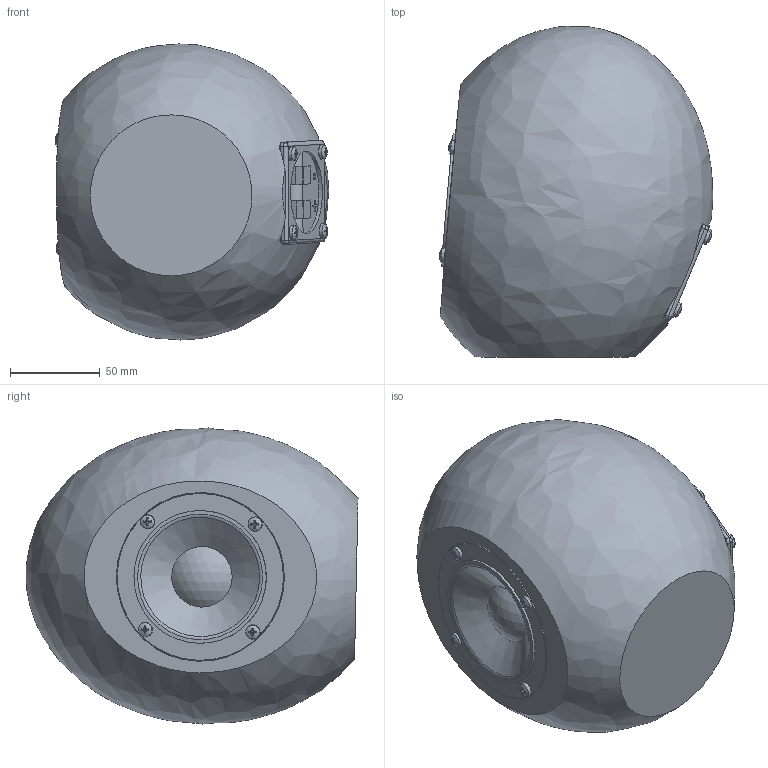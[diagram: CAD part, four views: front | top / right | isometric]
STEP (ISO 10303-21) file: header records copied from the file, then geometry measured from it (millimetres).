
FILE_DESCRIPTION(/* description */ (''),/* implementation_level */ '2;1');
FILE_NAME(/* name */ 'C:\Users\mzell\OneDrive - Zeller Engineering UG (haftungsbeschränkt)\Mona2\Mona SAT.stp',/* time_stamp */ '2019-01-27T16:16:27+01:00',/* author */ ('mzell'),/* organization */ (''),/* preprocessor_version */ 'ST-DEVELOPER v17.2',/* originating_system */ 'Autodesk Inventor 2019',/* authorisation */ '');
FILE_SCHEMA (('AUTOMOTIVE_DESIGN { 1 0 10303 214 3 1 1 }'));
Length unit declared in the file: millimetre
Products named in the file (9): Mona SAT; 3D-Druck EI; SPX-30M; Terminal; Spule 0,18mH 0,32Ohm; Wiederstand GSRB; ISO 7049 - ST4,2 x 16 - F - Z; Dichtung_SPX-30M-0,3; Dichtung Terminal 1
Assembly tree (15 placements, depth 2):
  Mona SAT
    3D-Druck EI
    SPX-30M
    Terminal
    Spule 0,18mH 0,32Ohm
    Wiederstand GSRB
    ISO 7049 - ST4,2 x 16 - F - Z  x8
    Dichtung_SPX-30M-0,3
    Dichtung Terminal 1
Bounding box: 152.3 x 184.92 x 164.96 mm (x, y, z)
Volume: 814868 mm3; surface area: 223933.6 mm2
Topology: 15 solids, 15 shells, 640 faces, 1733 edges, 1153 vertices
Faces by surface type: plane 354, cone 130, cylinder 69, bspline 36, torus 36, sphere 15
Full cylindrical faces by diameter (mm): 2 x8, 4 x16, 4.2 x8, 8 x1, 15 x1, 30 x1, 46 x1, 49.5 x2, 50 x1, 68 x1, 71 x2, 73 x1, 74 x1, 93 x1, 93.5 x1, 94 x1
Entity records: 13428 total; most frequent: CARTESIAN_POINT 3820, ORIENTED_EDGE 1962, DIRECTION 1800, EDGE_CURVE 981, VERTEX_POINT 656, AXIS2_PLACEMENT_3D 603, LINE 594, VECTOR 594
